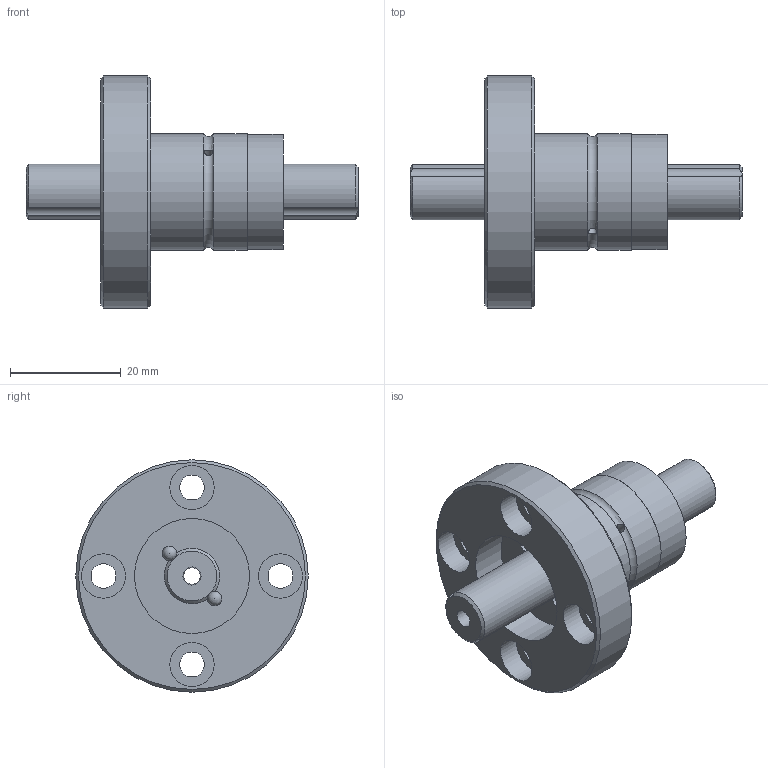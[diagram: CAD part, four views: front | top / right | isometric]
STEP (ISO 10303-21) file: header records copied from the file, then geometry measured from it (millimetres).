
FILE_DESCRIPTION(/* description */ ('Unknown'),/* implementation_level */ '2;1');
FILE_NAME(/* name */ 'TLF010-D1-L60',/* time_stamp */ '2024-12-16T13:42:56+08:00',/* author */ ('Unknown'),/* organization */ ('Unknown'),/* preprocessor_version */ 'ST-DEVELOPER v18.102',/* originating_system */ 'Solid Edge',/* authorisation */ 'Unknown');
FILE_SCHEMA (('AUTOMOTIVE_DESIGN {1 0 10303 214 3 1 1}'));
Length unit declared in the file: millimetre
Products named in the file (3): TLF010-D1-L60; TLF010-D1-xxxx; TLF010
Assembly tree (2 placements, depth 2):
  TLF010-D1-L60
    TLF010-D1-xxxx
    TLF010
Bounding box: 60 x 42 x 42 mm (x, y, z)
Volume: 19229.3 mm3; surface area: 10221 mm2
Topology: 2 solids, 2 shells, 52 faces, 149 edges, 100 vertices
Faces by surface type: cylinder 23, plane 11, sphere 10, cone 7, torus 1
Full cylindrical faces by diameter (mm): 1.5 x2, 4.5 x4, 8 x4, 20.8 x2, 21 x2, 42 x1
Entity records: 1863 total; most frequent: CARTESIAN_POINT 661, DIRECTION 234, ORIENTED_EDGE 176, EDGE_LOOP 120, FACE_BOUND 120, AXIS2_PLACEMENT_3D 113, EDGE_CURVE 88, VERTEX_POINT 76
